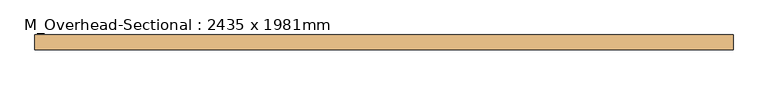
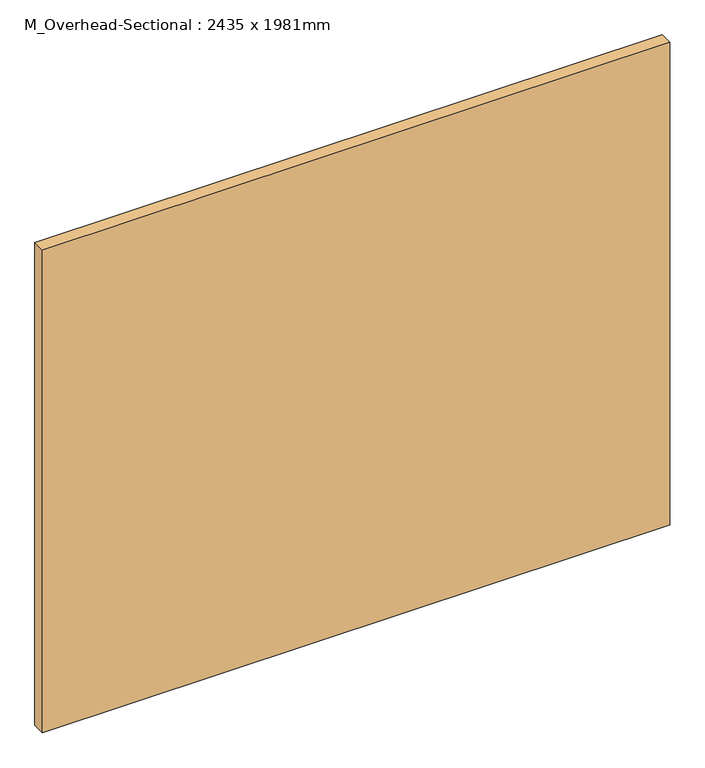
"""IFC4 building model written with IfcOpenShell, lengths in millimetres: door geometry, M_Overhead-Sectional : 2435 x 1981mm."""

from ifc_helpers import new_model, si_unit, origin, origin_with_axes, place, context, project, spatial, polyline, outline, extrude, source, transform, mapped, element, save


def m_overhead_sectional_2435_x_1981mm_e84f239d(model_context):
    return source(origin(), model_context, "Body", "SweptSolid", [
        extrude(outline(polyline([(1217.5, -135.0), (1217.5, -186.0), (-1217.5, -186.0), (-1217.5, -135.0), (1217.5, -135.0)])), origin_with_axes(), (0.0, 0.0, 1.0), 1981.0),
    ])


if __name__ == "__main__":
    model = new_model("IFC4")
    model_context = context("Model", 3, world=origin())
    ifc_project = project(units=[si_unit("LENGTHUNIT", "METRE", prefix="MILLI")], contexts=[model_context])
    site = spatial("IfcSite", under=ifc_project)
    building = spatial("IfcBuilding", under=site)
    placement = place(None, origin())
    m_overhead_sectional_2435_x_1981mm_shape = m_overhead_sectional_2435_x_1981mm_e84f239d(model_context)
    element("IfcDoor", 1, ObjectType="M_Overhead-Sectional : 2435 x 1981mm", at=placement, inside=building, context=model_context, shape_type="MappedRepresentation", body=[
        mapped(m_overhead_sectional_2435_x_1981mm_shape, transform((0.0, 0.0, 0.0), x_axis=(1.0, 0.0, 0.0), y_axis=(0.0, 1.0, 0.0), z_axis=(0.0, 0.0, 1.0))),
    ])
    save(model, "model.ifc")
